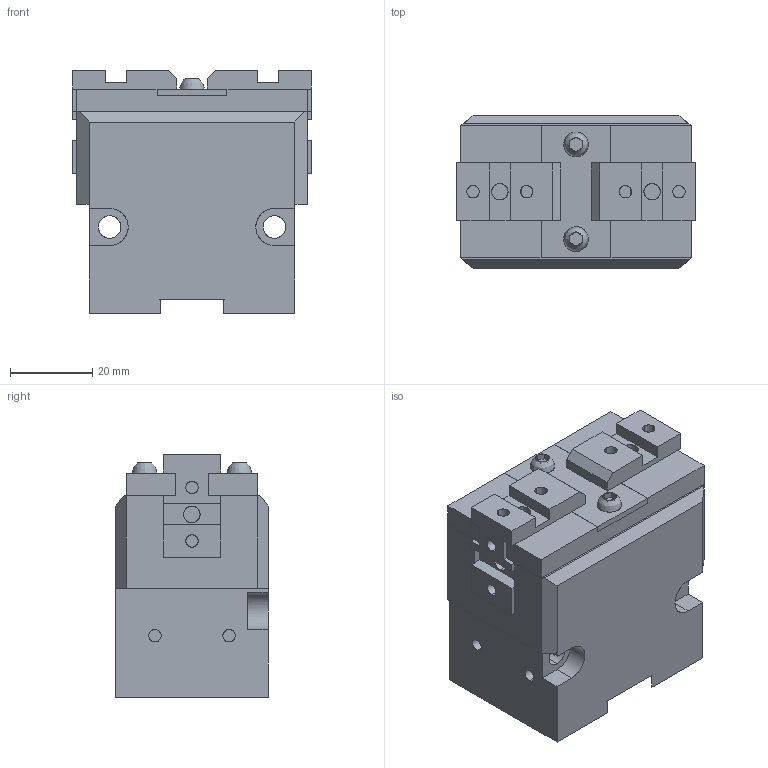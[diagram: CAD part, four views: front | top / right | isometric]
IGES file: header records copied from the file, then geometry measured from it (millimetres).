
Global section: file name: C:\Documents and Settings\Administrateur\Mes documents\OPE-60-SX-CLOSED.igs; native system: AutoCAD-16.0s (LMS Tech) (Microsoft Windows NT Version 5.1 (x86)); preprocessor: Autodesk IGES Translator Mechanical Desktop.R7.0.43.0 (Mar 18 2003) from Autodesk, Inc.; date: 20050628.132437; units: millimetre
Bounding box: 58 x 37 x 59 mm (x, y, z)
Surface area: 29493.9 mm2 (no closed solid volume)
Topology: 0 solids, 0 shells, 245 faces, 2118 edges, 2204 vertices
Faces by surface type: bspline 245
